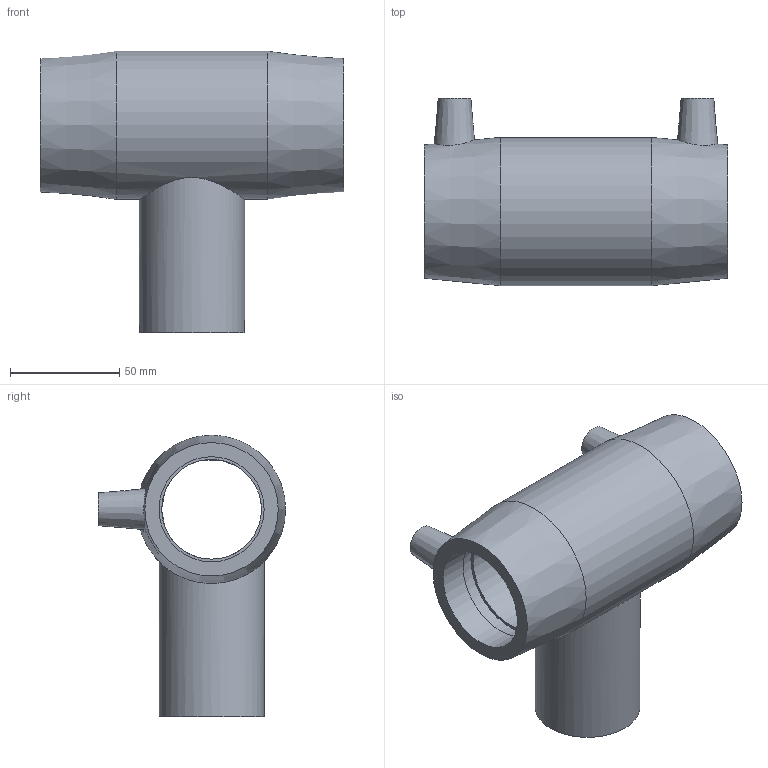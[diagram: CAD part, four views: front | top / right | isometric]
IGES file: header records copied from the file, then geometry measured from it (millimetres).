
Global section: file name: 5904B003015.ipt; native system: Autodesk Inventor 2019; preprocessor: unknown; author: KIM; date: 20210830.100945; units: inch
Bounding box: 138.94 x 85.72 x 128.91 mm (x, y, z)
Volume: 268190.8 mm3; surface area: 71800.3 mm2
Topology: 1 solids, 1 shells, 31 faces, 72 edges, 52 vertices
Faces by surface type: plane 13, revolution 10, cylinder 4, cone 4
Full cylindrical faces by diameter (mm): 4.8 x2, 48.1 x1, 67.818 x1
